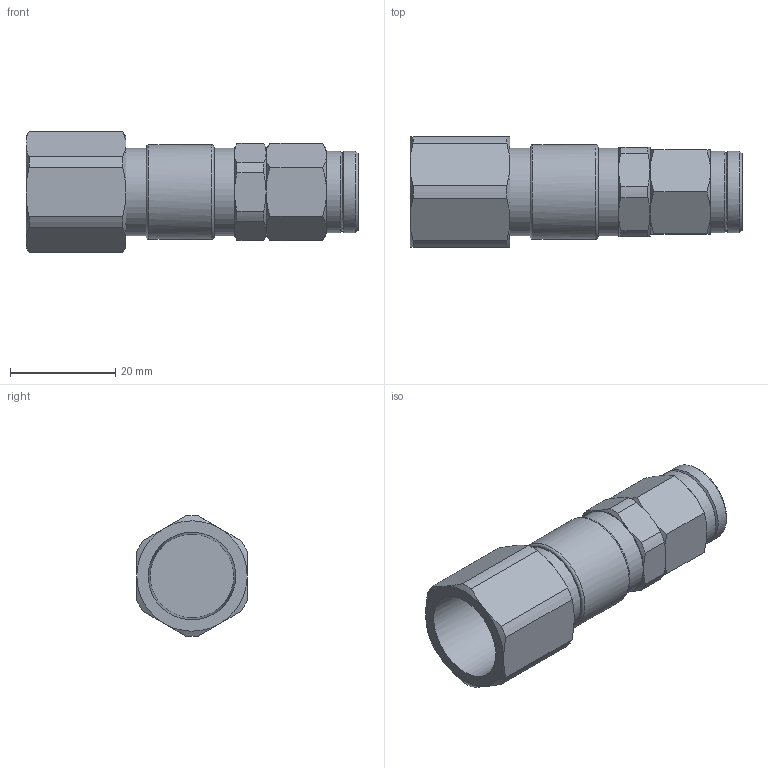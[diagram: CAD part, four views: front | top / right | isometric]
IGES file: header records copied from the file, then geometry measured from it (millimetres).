
Global section: file name: [02] 2FA3F-6.5H; native system: Autodesk Inventor 2014; preprocessor: unknown; author: kazuhiro.t; date: 20130805.153623; units: millimetre
Bounding box: 63.2 x 21 x 23 mm (x, y, z)
Volume: 13787.5 mm3; surface area: 6702.1 mm2
Topology: 3 solids, 3 shells, 98 faces, 229 edges, 144 vertices
Faces by surface type: bspline 98
